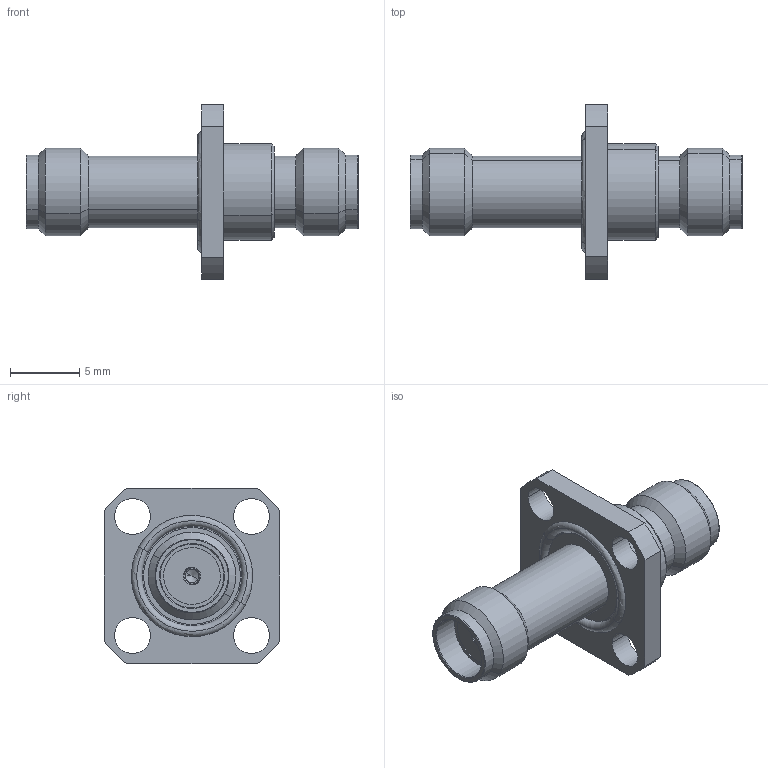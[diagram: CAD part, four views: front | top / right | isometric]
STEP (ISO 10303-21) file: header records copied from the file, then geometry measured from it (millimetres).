
FILE_DESCRIPTION(('CATIA V5 STEP Exchange'),'2;1');
FILE_NAME('D:\Work SZ\CMP 图纸\Precision Adapter\P-SMA-SMA\P-SMAF-SMAF-264\P-SMAF-SMAF-264(REV.A).stp','2021-05-16T09:31:10+00:00',('none'),('none'),'CATIA Version 5 Release 20 GA (IN-10)','CATIA V5 STEP AP203','none');
FILE_SCHEMA(('CONFIG_CONTROL_DESIGN'));
Length unit declared in the file: millimetre
Products named in the file (1): P-SMAF-SMAF-264(REV.A)
Bounding box: 24 x 12.7 x 12.7 mm (x, y, z)
Volume: 753.4 mm3; surface area: 970.2 mm2
Topology: 1 solids, 1 shells, 114 faces, 268 edges, 164 vertices
Faces by surface type: cylinder 46, plane 32, cone 26, torus 10
Entity records: 2990 total; most frequent: CARTESIAN_POINT 611, ORIENTED_EDGE 528, DIRECTION 364, EDGE_CURVE 264, AXIS2_PLACEMENT_3D 197, VERTEX_POINT 164, CIRCLE 140, EDGE_LOOP 134
